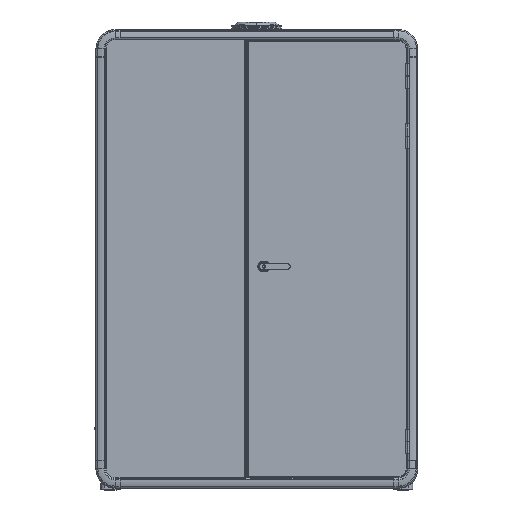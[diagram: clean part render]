
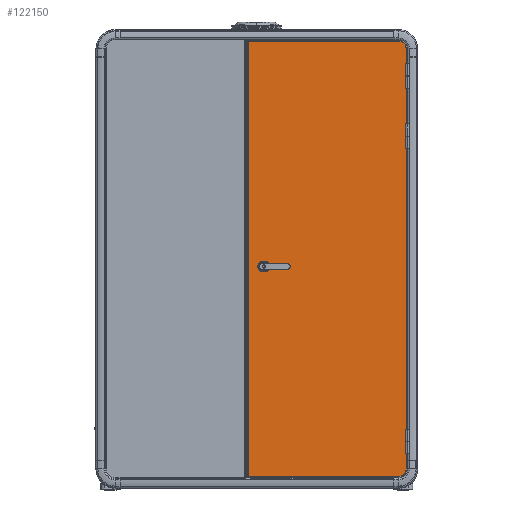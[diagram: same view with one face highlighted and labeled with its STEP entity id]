
A CAD part, top view. The second image highlights one B-rep face of the part: STEP entity #122150.
In plain terms, the highlighted planar face has unit normal (0, 0, 1).
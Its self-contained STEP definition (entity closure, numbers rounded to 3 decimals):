
#355 = AXIS2_PLACEMENT_3D ( 'NONE', #60378, #114993, #29023 ) ;
#366 = VECTOR ( 'NONE', #140710, 1000. ) ;
#1007 = DIRECTION ( 'NONE',  ( 1., 0., 0. ) ) ;
#1751 = EDGE_LOOP ( 'NONE', ( #82764, #58971, #91155, #85764, #52257, #94331 ) ) ;
#4104 = CARTESIAN_POINT ( 'NONE',  ( -42., -1082., 685. ) ) ;
#4213 = DIRECTION ( 'NONE',  ( 1., 0., 0. ) ) ;
#6926 = AXIS2_PLACEMENT_3D ( 'NONE', #79348, #26086, #4213 ) ;
#7745 = VERTEX_POINT ( 'NONE', #108649 ) ;
#8808 = ORIENTED_EDGE ( 'NONE', *, *, #138279, .F. ) ;
#10383 = VERTEX_POINT ( 'NONE', #83959 ) ;
#11373 = CIRCLE ( 'NONE', #127443, 21.5 ) ;
#11377 = CARTESIAN_POINT ( 'NONE',  ( -42., -1083.5, 685. ) ) ;
#11509 = CIRCLE ( 'NONE', #12332, 21.5 ) ;
#12332 = AXIS2_PLACEMENT_3D ( 'NONE', #108529, #129924, #88174 ) ;
#13657 = EDGE_CURVE ( 'NONE', #53394, #7745, #74805, .T. ) ;
#16574 = CARTESIAN_POINT ( 'NONE',  ( 39.25, -38.5, 685. ) ) ;
#16915 = VECTOR ( 'NONE', #134890, 1000. ) ;
#20018 = VECTOR ( 'NONE', #68013, 1000. ) ;
#20612 = AXIS2_PLACEMENT_3D ( 'NONE', #109297, #65572, #1007 ) ;
#21034 = DIRECTION ( 'NONE',  ( 0., 0., 1. ) ) ;
#23316 = DIRECTION ( 'NONE',  ( 0., -1., 0. ) ) ;
#25958 = VECTOR ( 'NONE', #28056, 1000. ) ;
#26086 = DIRECTION ( 'NONE',  ( 0., 0., 1. ) ) ;
#28056 = DIRECTION ( 'NONE',  ( 0., 1., 0. ) ) ;
#29023 = DIRECTION ( 'NONE',  ( 1., 0., 0. ) ) ;
#30608 = ORIENTED_EDGE ( 'NONE', *, *, #36832, .F. ) ;
#31090 = VERTEX_POINT ( 'NONE', #91345 ) ;
#33379 = CARTESIAN_POINT ( 'NONE',  ( 27.75, -17., 685. ) ) ;
#36832 = EDGE_CURVE ( 'NONE', #10383, #31090, #11509, .T. ) ;
#40802 = ORIENTED_EDGE ( 'NONE', *, *, #42193, .F. ) ;
#42193 = EDGE_CURVE ( 'NONE', #49716, #113196, #11373, .T. ) ;
#43559 = VECTOR ( 'NONE', #120217, 1000. ) ;
#44184 = CARTESIAN_POINT ( 'NONE',  ( 27.75, -60., 685. ) ) ;
#44681 = CARTESIAN_POINT ( 'NONE',  ( -42., 1082., 685. ) ) ;
#49716 = VERTEX_POINT ( 'NONE', #117040 ) ;
#49829 = CARTESIAN_POINT ( 'NONE',  ( 742., 1045., 685. ) ) ;
#50523 = VECTOR ( 'NONE', #23316, 1000. ) ;
#52257 = ORIENTED_EDGE ( 'NONE', *, *, #72694, .T. ) ;
#53394 = VERTEX_POINT ( 'NONE', #94004 ) ;
#57406 = AXIS2_PLACEMENT_3D ( 'NONE', #16574, #125873, #137225 ) ;
#58404 = EDGE_CURVE ( 'NONE', #76081, #124707, #103669, .T. ) ;
#58971 = ORIENTED_EDGE ( 'NONE', *, *, #72117, .T. ) ;
#60378 = CARTESIAN_POINT ( 'NONE',  ( 705., 1045., 685. ) ) ;
#65572 = DIRECTION ( 'NONE',  ( 0., 0., 1. ) ) ;
#68013 = DIRECTION ( 'NONE',  ( -1., 0., 0. ) ) ;
#71044 = LINE ( 'NONE', #11377, #50523 ) ;
#72117 = EDGE_CURVE ( 'NONE', #124707, #105006, #112012, .T. ) ;
#72694 = EDGE_CURVE ( 'NONE', #7745, #112648, #81318, .T. ) ;
#74756 = EDGE_CURVE ( 'NONE', #112648, #76081, #71044, .T. ) ;
#74805 = CIRCLE ( 'NONE', #20612, 37. ) ;
#76081 = VERTEX_POINT ( 'NONE', #4104 ) ;
#79348 = CARTESIAN_POINT ( 'NONE',  ( 705., -1045., 685. ) ) ;
#79568 = EDGE_LOOP ( 'NONE', ( #30608, #125385, #90375, #40802, #8808 ) ) ;
#81318 = LINE ( 'NONE', #89477, #20018 ) ;
#82764 = ORIENTED_EDGE ( 'NONE', *, *, #58404, .T. ) ;
#83752 = LINE ( 'NONE', #49829, #25958 ) ;
#83959 = CARTESIAN_POINT ( 'NONE',  ( 27.75, -17., 685. ) ) ;
#85764 = ORIENTED_EDGE ( 'NONE', *, *, #13657, .T. ) ;
#86202 = CARTESIAN_POINT ( 'NONE',  ( 39.25, -38.5, 685. ) ) ;
#88174 = DIRECTION ( 'NONE',  ( 1., 0., 0. ) ) ;
#88482 = CARTESIAN_POINT ( 'NONE',  ( 39.25, -17., 685. ) ) ;
#89477 = CARTESIAN_POINT ( 'NONE',  ( -43.5, 1082., 685. ) ) ;
#89601 = LINE ( 'NONE', #44184, #43559 ) ;
#90375 = ORIENTED_EDGE ( 'NONE', *, *, #107584, .F. ) ;
#91155 = ORIENTED_EDGE ( 'NONE', *, *, #113218, .T. ) ;
#91345 = CARTESIAN_POINT ( 'NONE',  ( 27.75, -60., 685. ) ) ;
#93193 = CARTESIAN_POINT ( 'NONE',  ( 60.75, -38.5, 685. ) ) ;
#93898 = EDGE_CURVE ( 'NONE', #105929, #10383, #98976, .T. ) ;
#94004 = CARTESIAN_POINT ( 'NONE',  ( 742., 1045., 685. ) ) ;
#94331 = ORIENTED_EDGE ( 'NONE', *, *, #74756, .T. ) ;
#96860 = FACE_BOUND ( 'NONE', #79568, .T. ) ;
#98624 = FACE_OUTER_BOUND ( 'NONE', #1751, .T. ) ;
#98976 = LINE ( 'NONE', #33379, #366 ) ;
#103669 = LINE ( 'NONE', #113518, #16915 ) ;
#105006 = VERTEX_POINT ( 'NONE', #117557 ) ;
#105030 = PLANE ( 'NONE',  #355 ) ;
#105929 = VERTEX_POINT ( 'NONE', #88482 ) ;
#107584 = EDGE_CURVE ( 'NONE', #113196, #105929, #135178, .T. ) ;
#107974 = DIRECTION ( 'NONE',  ( 1., 0., 0. ) ) ;
#108529 = CARTESIAN_POINT ( 'NONE',  ( 27.75, -38.5, 685. ) ) ;
#108649 = CARTESIAN_POINT ( 'NONE',  ( 705., 1082., 685. ) ) ;
#109297 = CARTESIAN_POINT ( 'NONE',  ( 705., 1045., 685. ) ) ;
#112012 = CIRCLE ( 'NONE', #6926, 37. ) ;
#112648 = VERTEX_POINT ( 'NONE', #44681 ) ;
#113196 = VERTEX_POINT ( 'NONE', #93193 ) ;
#113218 = EDGE_CURVE ( 'NONE', #105006, #53394, #83752, .T. ) ;
#113518 = CARTESIAN_POINT ( 'NONE',  ( 705., -1082., 685. ) ) ;
#114993 = DIRECTION ( 'NONE',  ( 0., 0., 1. ) ) ;
#117040 = CARTESIAN_POINT ( 'NONE',  ( 39.25, -60., 685. ) ) ;
#117557 = CARTESIAN_POINT ( 'NONE',  ( 742., -1045., 685. ) ) ;
#120217 = DIRECTION ( 'NONE',  ( 1., 0., 0. ) ) ;
#122150 = ADVANCED_FACE ( 'NONE', ( #96860, #98624 ), #105030, .T. ) ;
#124707 = VERTEX_POINT ( 'NONE', #135291 ) ;
#125385 = ORIENTED_EDGE ( 'NONE', *, *, #93898, .F. ) ;
#125873 = DIRECTION ( 'NONE',  ( 0., 0., 1. ) ) ;
#127443 = AXIS2_PLACEMENT_3D ( 'NONE', #86202, #21034, #107974 ) ;
#129924 = DIRECTION ( 'NONE',  ( 0., 0., 1. ) ) ;
#134890 = DIRECTION ( 'NONE',  ( 1., 0., 0. ) ) ;
#135178 = CIRCLE ( 'NONE', #57406, 21.5 ) ;
#135291 = CARTESIAN_POINT ( 'NONE',  ( 705., -1082., 685. ) ) ;
#137225 = DIRECTION ( 'NONE',  ( 1., 0., 0. ) ) ;
#138279 = EDGE_CURVE ( 'NONE', #31090, #49716, #89601, .T. ) ;
#140710 = DIRECTION ( 'NONE',  ( -1., 0., 0. ) ) ;
